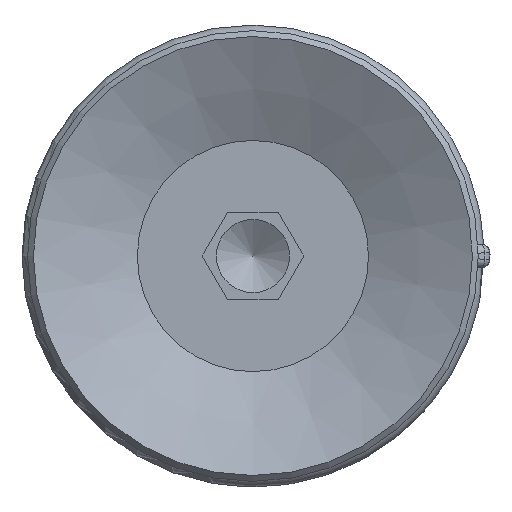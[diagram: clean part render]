
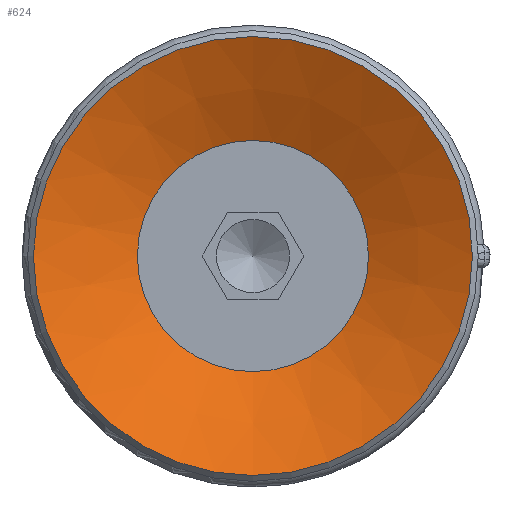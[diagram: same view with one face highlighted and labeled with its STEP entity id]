
A CAD part, front view. The second image highlights one B-rep face of the part: STEP entity #624.
In plain terms, the highlighted conical face has half-angle 64 degrees and reference radius 3.95 mm.
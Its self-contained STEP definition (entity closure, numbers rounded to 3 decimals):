
#624=ADVANCED_FACE('',(#914,#915),#916,.F.);
#914=FACE_BOUND('',#1347,.T.);
#915=FACE_OUTER_BOUND('',#1348,.T.);
#916=CONICAL_SURFACE('',#1349,3.95,1.117);
#1347=EDGE_LOOP('',(#2108));
#1348=EDGE_LOOP('',(#2109));
#1349=AXIS2_PLACEMENT_3D('',#2110,#2111,#2112);
#2108=ORIENTED_EDGE('',*,*,#2429,.F.);
#2109=ORIENTED_EDGE('',*,*,#2400,.T.);
#2110=CARTESIAN_POINT('',(0.0,-29.404,-47.168));
#2111=DIRECTION('',(-0.0,0.,1.0));
#2112=DIRECTION('',(0.0,-1.0,0.));
#2400=EDGE_CURVE('',#2741,#2741,#2742,.T.);
#2429=EDGE_CURVE('',#2787,#2787,#2788,.T.);
#2741=VERTEX_POINT('',#3689);
#2742=CIRCLE('',#3690,7.5);
#2787=VERTEX_POINT('',#3757);
#2788=CIRCLE('',#3758,3.95);
#3689=CARTESIAN_POINT('',(0.0,-36.904,-45.437));
#3690=AXIS2_PLACEMENT_3D('',#4079,#4080,#4081);
#3757=CARTESIAN_POINT('',(0.0,-33.354,-47.168));
#3758=AXIS2_PLACEMENT_3D('',#4151,#4152,#4153);
#4079=CARTESIAN_POINT('',(0.0,-29.404,-45.437));
#4080=DIRECTION('',(0.0,0.,1.0));
#4081=DIRECTION('',(0.0,-1.0,0.));
#4151=CARTESIAN_POINT('',(0.0,-29.404,-47.168));
#4152=DIRECTION('',(0.0,0.,1.0));
#4153=DIRECTION('',(0.0,-1.0,0.));
